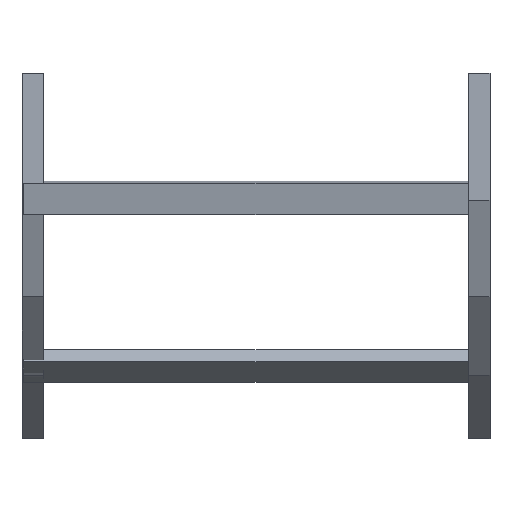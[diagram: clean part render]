
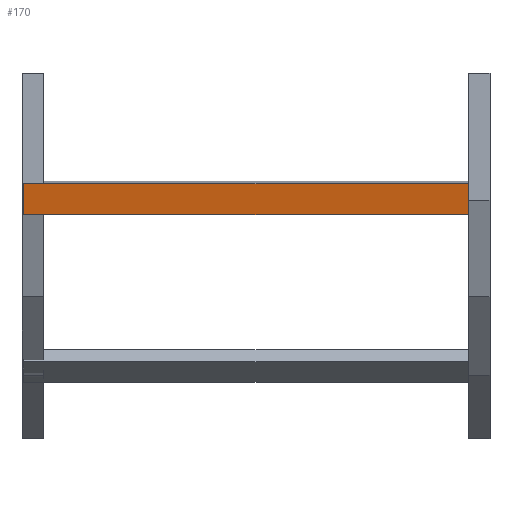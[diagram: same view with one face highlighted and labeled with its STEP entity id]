
A CAD part, front view. The second image highlights one B-rep face of the part: STEP entity #170.
In plain terms, the highlighted planar face has unit normal (0, -0.985, -0.174) as drawn and (0, -1, 0) by its records, which use the part's own axes.
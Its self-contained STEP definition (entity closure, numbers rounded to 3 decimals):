
#1 = CARTESIAN_POINT ( 'NONE',  ( -298., 0., 20.25 ) ) ;
#25 = PLANE ( 'NONE',  #1559 ) ;
#44 = VECTOR ( 'NONE', #1435, 1000. ) ;
#74 = VECTOR ( 'NONE', #1499, 1000. ) ;
#170 = ADVANCED_FACE ( 'NONE', ( #253 ), #25, .F. ) ;
#218 = CARTESIAN_POINT ( 'NONE',  ( -298., 0., -20.25 ) ) ;
#229 = VERTEX_POINT ( 'NONE', #1444 ) ;
#236 = CARTESIAN_POINT ( 'NONE',  ( 298., 0., 20.25 ) ) ;
#250 = ORIENTED_EDGE ( 'NONE', *, *, #1103, .T. ) ;
#253 = FACE_OUTER_BOUND ( 'NONE', #1388, .T. ) ;
#268 = LINE ( 'NONE', #1, #44 ) ;
#442 = DIRECTION ( 'NONE',  ( 0., 0., -1. ) ) ;
#449 = VERTEX_POINT ( 'NONE', #218 ) ;
#460 = CARTESIAN_POINT ( 'NONE',  ( 298., 0., 20.25 ) ) ;
#504 = ORIENTED_EDGE ( 'NONE', *, *, #507, .F. ) ;
#507 = EDGE_CURVE ( 'NONE', #1469, #449, #889, .T. ) ;
#630 = DIRECTION ( 'NONE',  ( -1., 0., 0. ) ) ;
#668 = EDGE_CURVE ( 'NONE', #1183, #1469, #1081, .T. ) ;
#673 = LINE ( 'NONE', #460, #74 ) ;
#679 = VECTOR ( 'NONE', #630, 1000. ) ;
#715 = VECTOR ( 'NONE', #442, 1000. ) ;
#826 = EDGE_CURVE ( 'NONE', #229, #449, #268, .T. ) ;
#889 = LINE ( 'NONE', #1140, #679 ) ;
#892 = ORIENTED_EDGE ( 'NONE', *, *, #826, .T. ) ;
#1028 = CARTESIAN_POINT ( 'NONE',  ( 298., 0., 20.25 ) ) ;
#1081 = LINE ( 'NONE', #1623, #715 ) ;
#1103 = EDGE_CURVE ( 'NONE', #1183, #229, #673, .T. ) ;
#1140 = CARTESIAN_POINT ( 'NONE',  ( 298., 0., -20.25 ) ) ;
#1177 = DIRECTION ( 'NONE',  ( 0., 0., 1. ) ) ;
#1183 = VERTEX_POINT ( 'NONE', #236 ) ;
#1279 = CARTESIAN_POINT ( 'NONE',  ( 298., 0., -20.25 ) ) ;
#1292 = DIRECTION ( 'NONE',  ( 0., 1., 0. ) ) ;
#1388 = EDGE_LOOP ( 'NONE', ( #892, #504, #1395, #250 ) ) ;
#1395 = ORIENTED_EDGE ( 'NONE', *, *, #668, .F. ) ;
#1435 = DIRECTION ( 'NONE',  ( 0., 0., -1. ) ) ;
#1444 = CARTESIAN_POINT ( 'NONE',  ( -298., 0., 20.25 ) ) ;
#1469 = VERTEX_POINT ( 'NONE', #1279 ) ;
#1499 = DIRECTION ( 'NONE',  ( -1., 0., 0. ) ) ;
#1559 = AXIS2_PLACEMENT_3D ( 'NONE', #1028, #1292, #1177 ) ;
#1623 = CARTESIAN_POINT ( 'NONE',  ( 298., 0., 20.25 ) ) ;
